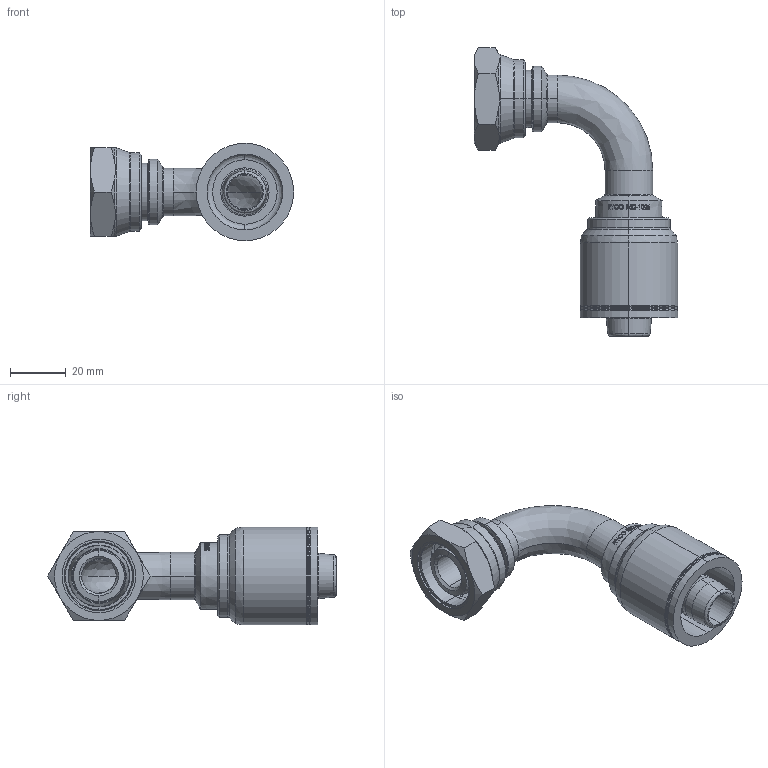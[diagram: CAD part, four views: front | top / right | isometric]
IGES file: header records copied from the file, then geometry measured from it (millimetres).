
Start section: SolidWorks IGES file using analytic representation for surfaces
Global section: file name: X:\SolidWorks\Solidworks models-to be checked\Customer Part Models\T252-1026.IGS; native system: SolidWorks 2010; preprocessor: SolidWorks 2010; author: MKitchenham; date: 120322.142550; units: millimetre
Bounding box: 72.61 x 103.18 x 34.8 mm (x, y, z)
Volume: 36407.9 mm3; surface area: 24443.3 mm2
Topology: 3 solids, 3 shells, 369 faces, 861 edges, 520 vertices
Faces by surface type: revolution 222, bspline 87, plane 60
